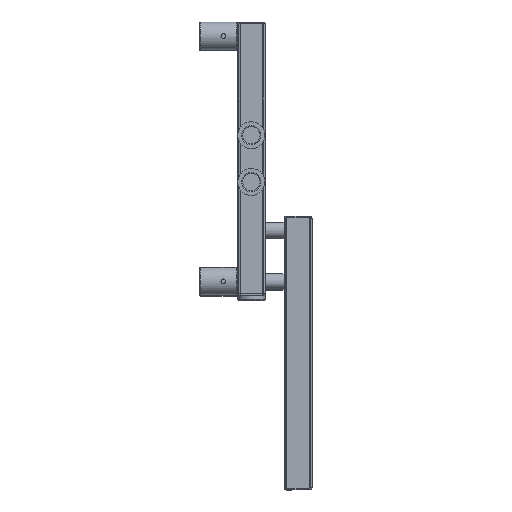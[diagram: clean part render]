
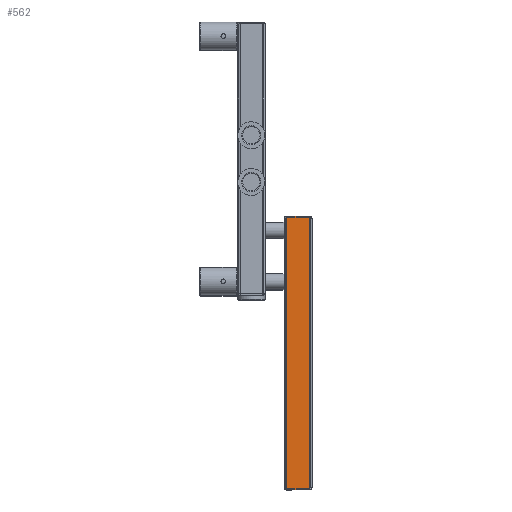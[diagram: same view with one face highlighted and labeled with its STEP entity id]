
A CAD part, top view. The second image highlights one B-rep face of the part: STEP entity #562.
In plain terms, the highlighted planar face has unit normal (0, 0, 1) as drawn and (0, -1, 0) by its records, which use the part's own axes.
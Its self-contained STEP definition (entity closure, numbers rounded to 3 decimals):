
#562 = ADVANCED_FACE( '', ( #1286 ), #1287, .T. );
#1286 = FACE_OUTER_BOUND( '', #2441, .T. );
#1287 = PLANE( '', #2442 );
#2441 = EDGE_LOOP( '', ( #3575, #3576, #3577, #3578 ) );
#2442 = AXIS2_PLACEMENT_3D( '', #3579, #3580, #3581 );
#3575 = ORIENTED_EDGE( '', *, *, #6151, .T. );
#3576 = ORIENTED_EDGE( '', *, *, #6152, .T. );
#3577 = ORIENTED_EDGE( '', *, *, #6153, .F. );
#3578 = ORIENTED_EDGE( '', *, *, #6154, .T. );
#3579 = CARTESIAN_POINT( '', ( 15., -15., 292.5 ) );
#3580 = DIRECTION( '', ( 0., -1., 0. ) );
#3581 = DIRECTION( '', ( 1., 0., 0. ) );
#6151 = EDGE_CURVE( '', #7169, #7170, #7171, .T. );
#6152 = EDGE_CURVE( '', #7170, #7172, #7173, .T. );
#6153 = EDGE_CURVE( '', #7174, #7172, #7175, .T. );
#6154 = EDGE_CURVE( '', #7174, #7169, #7176, .F. );
#7169 = VERTEX_POINT( '', #8674 );
#7170 = VERTEX_POINT( '', #8675 );
#7171 = LINE( '', #8676, #8677 );
#7172 = VERTEX_POINT( '', #8678 );
#7173 = LINE( '', #8679, #8680 );
#7174 = VERTEX_POINT( '', #8681 );
#7175 = LINE( '', #8682, #8683 );
#7176 = LINE( '', #8684, #8685 );
#8674 = CARTESIAN_POINT( '', ( 12., -15., 292.5 ) );
#8675 = CARTESIAN_POINT( '', ( -12., -15., 292.5 ) );
#8676 = CARTESIAN_POINT( '', ( 15., -15., 292.5 ) );
#8677 = VECTOR( '', #10716, 1000. );
#8678 = CARTESIAN_POINT( '', ( -12., -15., 0. ) );
#8679 = CARTESIAN_POINT( '', ( -12., -15., 292.5 ) );
#8680 = VECTOR( '', #10717, 1000. );
#8681 = CARTESIAN_POINT( '', ( 12., -15., 0. ) );
#8682 = CARTESIAN_POINT( '', ( 15., -15., 0. ) );
#8683 = VECTOR( '', #10718, 1000. );
#8684 = CARTESIAN_POINT( '', ( 12., -15., 292.5 ) );
#8685 = VECTOR( '', #10719, 1000. );
#10716 = DIRECTION( '', ( -1., 0., 0. ) );
#10717 = DIRECTION( '', ( 0., 0., -1. ) );
#10718 = DIRECTION( '', ( -1., 0., 0. ) );
#10719 = DIRECTION( '', ( 0., 0., -1. ) );
